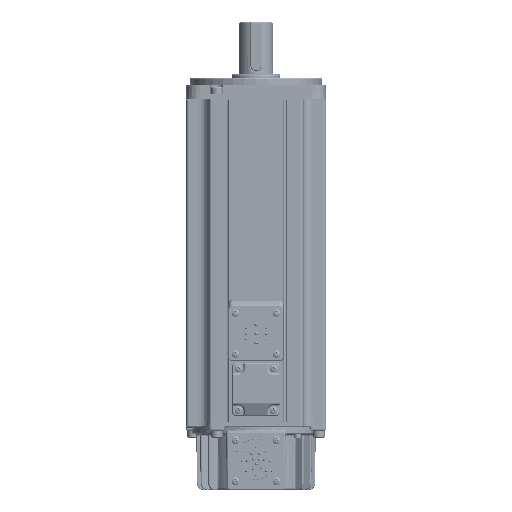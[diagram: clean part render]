
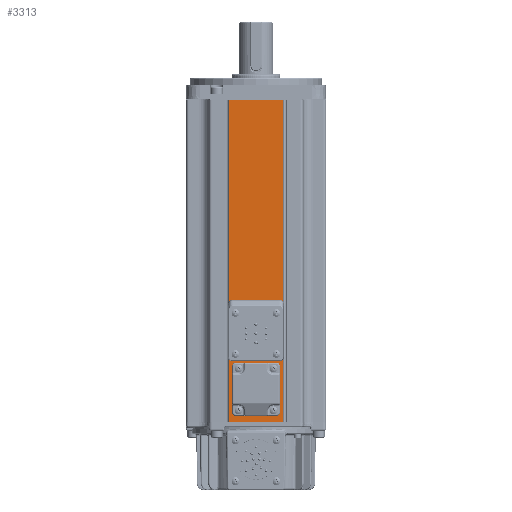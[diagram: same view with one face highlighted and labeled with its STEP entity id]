
A CAD part, front view. The second image highlights one B-rep face of the part: STEP entity #3313.
In plain terms, the highlighted planar face has unit normal (0, -1, 0).
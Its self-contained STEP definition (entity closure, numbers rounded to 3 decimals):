
#82=CARTESIAN_POINT('',(12.5,-50.,38.));
#83=DIRECTION('',(0.,1.,0.));
#84=DIRECTION('',(0.,0.,-1.));
#85=AXIS2_PLACEMENT_3D('',#82,#83,#84);
#87=CARTESIAN_POINT('',(12.5,-50.,38.));
#88=DIRECTION('',(0.,1.,0.));
#89=DIRECTION('',(0.,0.,1.));
#90=AXIS2_PLACEMENT_3D('',#87,#88,#89);
#92=CARTESIAN_POINT('',(-12.5,-50.,38.));
#93=DIRECTION('',(0.,1.,0.));
#94=DIRECTION('',(0.,0.,-1.));
#95=AXIS2_PLACEMENT_3D('',#92,#93,#94);
#97=CARTESIAN_POINT('',(-12.5,-50.,38.));
#98=DIRECTION('',(0.,1.,0.));
#99=DIRECTION('',(0.,0.,1.));
#100=AXIS2_PLACEMENT_3D('',#97,#98,#99);
#102=CARTESIAN_POINT('',(12.5,-50.,8.));
#103=DIRECTION('',(0.,1.,0.));
#104=DIRECTION('',(0.,0.,-1.));
#105=AXIS2_PLACEMENT_3D('',#102,#103,#104);
#107=CARTESIAN_POINT('',(12.5,-50.,8.));
#108=DIRECTION('',(0.,1.,0.));
#109=DIRECTION('',(0.,0.,1.));
#110=AXIS2_PLACEMENT_3D('',#107,#108,#109);
#112=CARTESIAN_POINT('',(-12.5,-50.,8.));
#113=DIRECTION('',(0.,1.,0.));
#114=DIRECTION('',(0.,0.,-1.));
#115=AXIS2_PLACEMENT_3D('',#112,#113,#114);
#117=CARTESIAN_POINT('',(-12.5,-50.,8.));
#118=DIRECTION('',(0.,1.,0.));
#119=DIRECTION('',(0.,0.,1.));
#120=AXIS2_PLACEMENT_3D('',#117,#118,#119);
#122=CARTESIAN_POINT('',(0.,-50.,31.5));
#123=DIRECTION('',(0.,1.,0.));
#124=DIRECTION('',(1.,0.,0.));
#125=AXIS2_PLACEMENT_3D('',#122,#123,#124);
#127=CARTESIAN_POINT('',(0.,-50.,31.5));
#128=DIRECTION('',(0.,1.,0.));
#129=DIRECTION('',(-1.,0.,0.));
#130=AXIS2_PLACEMENT_3D('',#127,#128,#129);
#132=CARTESIAN_POINT('',(0.,-50.,63.));
#133=DIRECTION('',(0.,1.,0.));
#134=DIRECTION('',(1.,0.,0.));
#135=AXIS2_PLACEMENT_3D('',#132,#133,#134);
#137=CARTESIAN_POINT('',(0.,-50.,63.));
#138=DIRECTION('',(0.,1.,0.));
#139=DIRECTION('',(-1.,0.,0.));
#140=AXIS2_PLACEMENT_3D('',#137,#138,#139);
#142=CARTESIAN_POINT('',(-14.68,-50.,77.68));
#143=DIRECTION('',(0.,1.,0.));
#144=DIRECTION('',(1.,0.,0.));
#145=AXIS2_PLACEMENT_3D('',#142,#143,#144);
#147=CARTESIAN_POINT('',(-14.68,-50.,77.68));
#148=DIRECTION('',(0.,1.,0.));
#149=DIRECTION('',(-1.,0.,0.));
#150=AXIS2_PLACEMENT_3D('',#147,#148,#149);
#152=CARTESIAN_POINT('',(14.68,-50.,77.68));
#153=DIRECTION('',(0.,1.,0.));
#154=DIRECTION('',(1.,0.,0.));
#155=AXIS2_PLACEMENT_3D('',#152,#153,#154);
#157=CARTESIAN_POINT('',(14.68,-50.,77.68));
#158=DIRECTION('',(0.,1.,0.));
#159=DIRECTION('',(-1.,0.,0.));
#160=AXIS2_PLACEMENT_3D('',#157,#158,#159);
#162=CARTESIAN_POINT('',(-14.68,-50.,48.32));
#163=DIRECTION('',(0.,1.,0.));
#164=DIRECTION('',(1.,0.,0.));
#165=AXIS2_PLACEMENT_3D('',#162,#163,#164);
#167=CARTESIAN_POINT('',(-14.68,-50.,48.32));
#168=DIRECTION('',(0.,1.,0.));
#169=DIRECTION('',(-1.,0.,0.));
#170=AXIS2_PLACEMENT_3D('',#167,#168,#169);
#172=CARTESIAN_POINT('',(14.68,-50.,48.32));
#173=DIRECTION('',(0.,1.,0.));
#174=DIRECTION('',(1.,0.,0.));
#175=AXIS2_PLACEMENT_3D('',#172,#173,#174);
#177=CARTESIAN_POINT('',(14.68,-50.,48.32));
#178=DIRECTION('',(0.,1.,0.));
#179=DIRECTION('',(-1.,0.,0.));
#180=AXIS2_PLACEMENT_3D('',#177,#178,#179);
#182=CARTESIAN_POINT('',(0.,-50.,79.));
#183=DIRECTION('',(0.,1.,0.));
#184=DIRECTION('',(1.,0.,0.));
#185=AXIS2_PLACEMENT_3D('',#182,#183,#184);
#187=CARTESIAN_POINT('',(0.,-50.,79.));
#188=DIRECTION('',(0.,1.,0.));
#189=DIRECTION('',(-1.,0.,0.));
#190=AXIS2_PLACEMENT_3D('',#187,#188,#189);
#192=DIRECTION('',(1.,0.,0.));
#193=VECTOR('',#192,39.317);
#194=CARTESIAN_POINT('',(-19.659,-50.,0.));
#195=LINE('',#194,#193);
#196=DIRECTION('',(0.,0.,-1.));
#197=VECTOR('',#196,230.);
#198=CARTESIAN_POINT('',(-19.659,-50.,230.));
#199=LINE('',#198,#197);
#200=DIRECTION('',(-1.,0.,0.));
#201=VECTOR('',#200,39.317);
#202=CARTESIAN_POINT('',(19.659,-50.,230.));
#203=LINE('',#202,#201);
#204=DIRECTION('',(0.,0.,1.));
#205=VECTOR('',#204,230.);
#206=CARTESIAN_POINT('',(19.659,-50.,0.));
#207=LINE('',#206,#205);
#2504=CARTESIAN_POINT('',(19.659,-50.,230.));
#2505=CARTESIAN_POINT('',(-19.659,-50.,230.));
#2506=VERTEX_POINT('',#2504);
#2507=VERTEX_POINT('',#2505);
#2580=CARTESIAN_POINT('',(-19.659,-50.,0.));
#2581=CARTESIAN_POINT('',(19.659,-50.,0.));
#2582=VERTEX_POINT('',#2580);
#2583=VERTEX_POINT('',#2581);
#2935=CARTESIAN_POINT('',(12.5,-50.,6.75));
#2937=VERTEX_POINT('',#2935);
#2938=CARTESIAN_POINT('',(12.5,-50.,9.25));
#2939=VERTEX_POINT('',#2938);
#2940=CARTESIAN_POINT('',(-12.5,-50.,63.));
#2941=CARTESIAN_POINT('',(12.5,-50.,63.));
#2942=VERTEX_POINT('',#2940);
#2943=VERTEX_POINT('',#2941);
#2944=CARTESIAN_POINT('',(-16.18,-50.,77.68));
#2945=CARTESIAN_POINT('',(-13.18,-50.,77.68));
#2946=VERTEX_POINT('',#2944);
#2947=VERTEX_POINT('',#2945);
#2948=CARTESIAN_POINT('',(-12.5,-50.,39.25));
#2949=CARTESIAN_POINT('',(-12.5,-50.,36.75));
#2950=VERTEX_POINT('',#2948);
#2951=VERTEX_POINT('',#2949);
#2953=CARTESIAN_POINT('',(-12.5,-50.,6.75));
#2955=VERTEX_POINT('',#2953);
#2956=CARTESIAN_POINT('',(-12.5,-50.,9.25));
#2957=VERTEX_POINT('',#2956);
#2963=CARTESIAN_POINT('',(-6.,-50.,31.5));
#2965=VERTEX_POINT('',#2963);
#2967=CARTESIAN_POINT('',(6.,-50.,31.5));
#2969=VERTEX_POINT('',#2967);
#2970=CARTESIAN_POINT('',(-1.5,-50.,79.));
#2971=CARTESIAN_POINT('',(1.5,-50.,79.));
#2972=VERTEX_POINT('',#2970);
#2973=VERTEX_POINT('',#2971);
#2974=CARTESIAN_POINT('',(13.18,-50.,48.32));
#2975=CARTESIAN_POINT('',(16.18,-50.,48.32));
#2976=VERTEX_POINT('',#2974);
#2977=VERTEX_POINT('',#2975);
#2978=CARTESIAN_POINT('',(-16.18,-50.,48.32));
#2979=CARTESIAN_POINT('',(-13.18,-50.,48.32));
#2980=VERTEX_POINT('',#2978);
#2981=VERTEX_POINT('',#2979);
#2982=CARTESIAN_POINT('',(13.18,-50.,77.68));
#2983=CARTESIAN_POINT('',(16.18,-50.,77.68));
#2984=VERTEX_POINT('',#2982);
#2985=VERTEX_POINT('',#2983);
#3024=CARTESIAN_POINT('',(12.5,-50.,39.25));
#3025=CARTESIAN_POINT('',(12.5,-50.,36.75));
#3026=VERTEX_POINT('',#3024);
#3027=VERTEX_POINT('',#3025);
#3234=CARTESIAN_POINT('',(-33.659,-50.,230.));
#3235=DIRECTION('',(0.,1.,0.));
#3236=DIRECTION('',(-1.,0.,0.));
#3237=AXIS2_PLACEMENT_3D('',#3234,#3235,#3236);
#3238=PLANE('',#3237);
#3240=ORIENTED_EDGE('',*,*,#3239,.F.);
#3242=ORIENTED_EDGE('',*,*,#3241,.F.);
#3244=ORIENTED_EDGE('',*,*,#3243,.F.);
#3246=ORIENTED_EDGE('',*,*,#3245,.F.);
#3247=EDGE_LOOP('',(#3240,#3242,#3244,#3246));
#3248=FACE_OUTER_BOUND('',#3247,.F.);
#3250=ORIENTED_EDGE('',*,*,#3249,.F.);
#3252=ORIENTED_EDGE('',*,*,#3251,.F.);
#3253=EDGE_LOOP('',(#3250,#3252));
#3254=FACE_BOUND('',#3253,.F.);
#3256=ORIENTED_EDGE('',*,*,#3255,.F.);
#3258=ORIENTED_EDGE('',*,*,#3257,.F.);
#3259=EDGE_LOOP('',(#3256,#3258));
#3260=FACE_BOUND('',#3259,.F.);
#3261=ORIENTED_EDGE('',*,*,#3212,.F.);
#3262=ORIENTED_EDGE('',*,*,#3117,.F.);
#3263=EDGE_LOOP('',(#3261,#3262));
#3264=FACE_BOUND('',#3263,.F.);
#3266=ORIENTED_EDGE('',*,*,#3265,.F.);
#3268=ORIENTED_EDGE('',*,*,#3267,.F.);
#3269=EDGE_LOOP('',(#3266,#3268));
#3270=FACE_BOUND('',#3269,.F.);
#3272=ORIENTED_EDGE('',*,*,#3271,.F.);
#3274=ORIENTED_EDGE('',*,*,#3273,.F.);
#3275=EDGE_LOOP('',(#3272,#3274));
#3276=FACE_BOUND('',#3275,.F.);
#3278=ORIENTED_EDGE('',*,*,#3277,.F.);
#3280=ORIENTED_EDGE('',*,*,#3279,.F.);
#3281=EDGE_LOOP('',(#3278,#3280));
#3282=FACE_BOUND('',#3281,.F.);
#3284=ORIENTED_EDGE('',*,*,#3283,.F.);
#3286=ORIENTED_EDGE('',*,*,#3285,.F.);
#3287=EDGE_LOOP('',(#3284,#3286));
#3288=FACE_BOUND('',#3287,.F.);
#3290=ORIENTED_EDGE('',*,*,#3289,.F.);
#3292=ORIENTED_EDGE('',*,*,#3291,.F.);
#3293=EDGE_LOOP('',(#3290,#3292));
#3294=FACE_BOUND('',#3293,.F.);
#3296=ORIENTED_EDGE('',*,*,#3295,.F.);
#3298=ORIENTED_EDGE('',*,*,#3297,.F.);
#3299=EDGE_LOOP('',(#3296,#3298));
#3300=FACE_BOUND('',#3299,.F.);
#3302=ORIENTED_EDGE('',*,*,#3301,.F.);
#3304=ORIENTED_EDGE('',*,*,#3303,.F.);
#3305=EDGE_LOOP('',(#3302,#3304));
#3306=FACE_BOUND('',#3305,.F.);
#3308=ORIENTED_EDGE('',*,*,#3307,.F.);
#3310=ORIENTED_EDGE('',*,*,#3309,.F.);
#3311=EDGE_LOOP('',(#3308,#3310));
#3312=FACE_BOUND('',#3311,.F.);
#3313=ADVANCED_FACE('',(#3248,#3254,#3260,#3264,#3270,#3276,#3282,#3288,#3294,
#3300,#3306,#3312),#3238,.F.);
#86=CIRCLE('',#85,1.25);
#91=CIRCLE('',#90,1.25);
#96=CIRCLE('',#95,1.25);
#101=CIRCLE('',#100,1.25);
#106=CIRCLE('',#105,1.25);
#111=CIRCLE('',#110,1.25);
#116=CIRCLE('',#115,1.25);
#121=CIRCLE('',#120,1.25);
#126=CIRCLE('',#125,6.);
#131=CIRCLE('',#130,6.);
#136=CIRCLE('',#135,12.5);
#141=CIRCLE('',#140,12.5);
#146=CIRCLE('',#145,1.5);
#151=CIRCLE('',#150,1.5);
#156=CIRCLE('',#155,1.5);
#161=CIRCLE('',#160,1.5);
#166=CIRCLE('',#165,1.5);
#171=CIRCLE('',#170,1.5);
#176=CIRCLE('',#175,1.5);
#181=CIRCLE('',#180,1.5);
#186=CIRCLE('',#185,1.5);
#191=CIRCLE('',#190,1.5);
#3117=EDGE_CURVE('',#2939,#2937,#111,.T.);
#3212=EDGE_CURVE('',#2937,#2939,#106,.T.);
#3239=EDGE_CURVE('',#2582,#2583,#195,.T.);
#3241=EDGE_CURVE('',#2507,#2582,#199,.T.);
#3243=EDGE_CURVE('',#2506,#2507,#203,.T.);
#3245=EDGE_CURVE('',#2583,#2506,#207,.T.);
#3249=EDGE_CURVE('',#3027,#3026,#86,.T.);
#3251=EDGE_CURVE('',#3026,#3027,#91,.T.);
#3255=EDGE_CURVE('',#2951,#2950,#96,.T.);
#3257=EDGE_CURVE('',#2950,#2951,#101,.T.);
#3265=EDGE_CURVE('',#2955,#2957,#116,.T.);
#3267=EDGE_CURVE('',#2957,#2955,#121,.T.);
#3271=EDGE_CURVE('',#2969,#2965,#126,.T.);
#3273=EDGE_CURVE('',#2965,#2969,#131,.T.);
#3277=EDGE_CURVE('',#2943,#2942,#136,.T.);
#3279=EDGE_CURVE('',#2942,#2943,#141,.T.);
#3283=EDGE_CURVE('',#2947,#2946,#146,.T.);
#3285=EDGE_CURVE('',#2946,#2947,#151,.T.);
#3289=EDGE_CURVE('',#2985,#2984,#156,.T.);
#3291=EDGE_CURVE('',#2984,#2985,#161,.T.);
#3295=EDGE_CURVE('',#2981,#2980,#166,.T.);
#3297=EDGE_CURVE('',#2980,#2981,#171,.T.);
#3301=EDGE_CURVE('',#2977,#2976,#176,.T.);
#3303=EDGE_CURVE('',#2976,#2977,#181,.T.);
#3307=EDGE_CURVE('',#2973,#2972,#186,.T.);
#3309=EDGE_CURVE('',#2972,#2973,#191,.T.);
